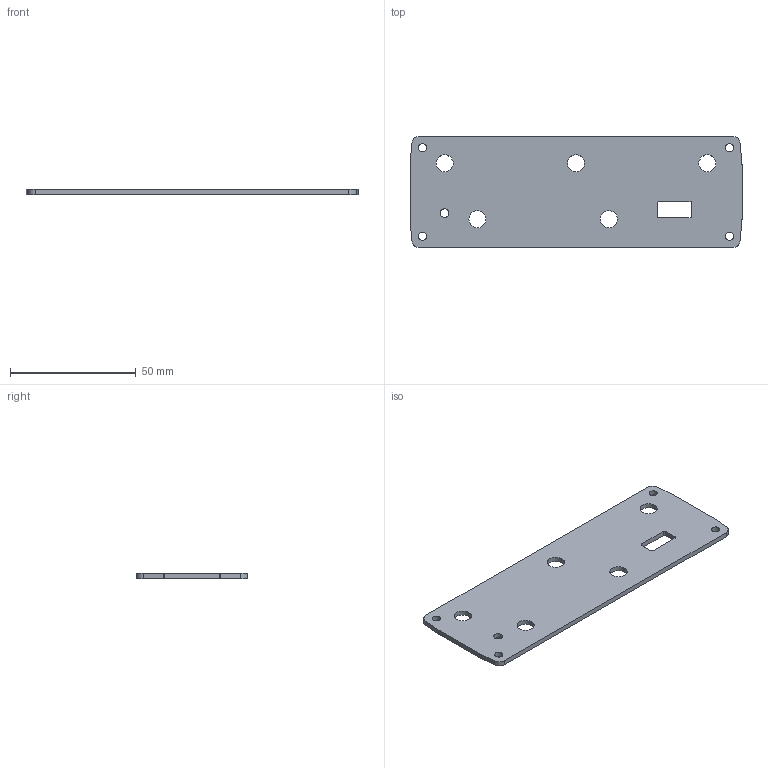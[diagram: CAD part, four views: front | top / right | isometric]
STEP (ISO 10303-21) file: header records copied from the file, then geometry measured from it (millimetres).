
FILE_DESCRIPTION (( 'STEP AP214' ), '1' );
FILE_NAME ('0638_RUTM60PRBK_01.STEP', '2025-07-18T10:51:52', ( '' ), ( '' ), 'SwSTEP 2.0', 'SolidWorks 2024', '' );
FILE_SCHEMA (( 'AUTOMOTIVE_DESIGN' ));
Length unit declared in the file: millimetre
Products named in the file (1): 0638_RUTM60PRBK_01
Bounding box: 132 x 44.2 x 2 mm (x, y, z)
Volume: 10988.4 mm3; surface area: 12074 mm2
Topology: 1 solids, 1 shells, 37 faces, 126 edges, 92 vertices
Faces by surface type: cylinder 22, plane 15
Full cylindrical faces by diameter (mm): 3.3 x4, 3.5 x1, 6.8 x5
Entity records: 1852 total; most frequent: DIRECTION 248, CARTESIAN_POINT 246, ORIENTED_EDGE 232, EDGE_CURVE 116, AXIS2_PLACEMENT_3D 94, VERTEX_POINT 92, EDGE_LOOP 70, VECTOR 60
